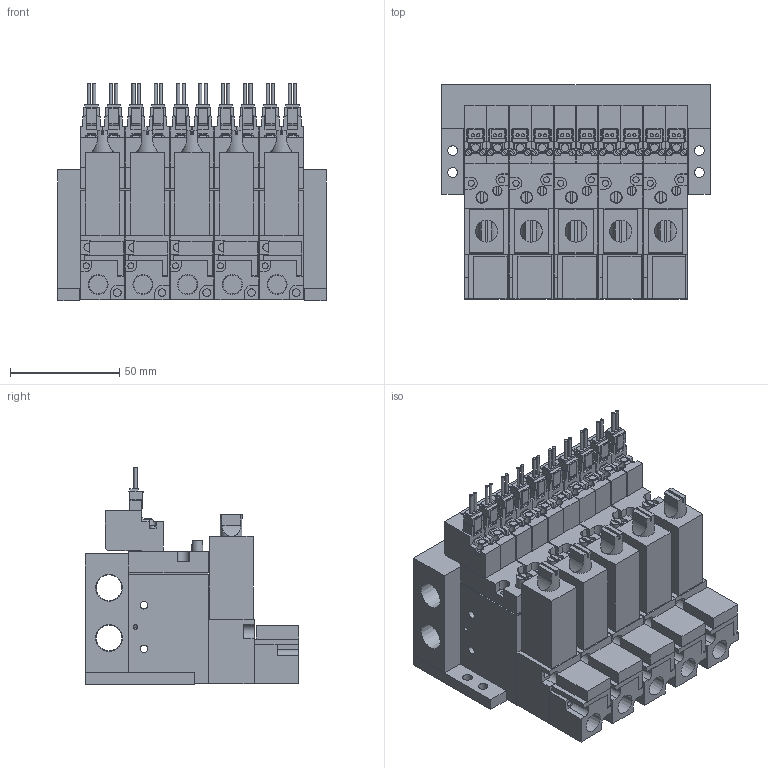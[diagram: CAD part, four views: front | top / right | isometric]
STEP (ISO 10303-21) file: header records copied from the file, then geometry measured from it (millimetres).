
FILE_DESCRIPTION(('STEP AP203'),'1');
FILE_NAME('BMPV32M2NZ25BL505.stp','2025-06-17T01:47:22',(' '),(' '),'Spatial InterOp 3D',' ',' ');
FILE_SCHEMA(('CONFIG_CONTROL_DESIGN'));
Length unit declared in the file: millimetre
Products named in the file (64): BMPV32M2NZ25BL505; S____; ___ ___2; ___-2(Rc); Filter Assy; __; _____; MB BRACKET; MB05; ___; upper plate-A; ______; ____; VACUUM VALVE FUNCTION MPV42-A
Assembly tree (63 placements, depth 2):
  BMPV32M2NZ25BL505
    S____
    ___ ___2
    ___-2(Rc)
    Filter Assy
    __
    _____
    S____
    ___ ___2
    ___-2(Rc)
    Filter Assy
    __
    _____
    S____
    ___ ___2
    ___-2(Rc)
    Filter Assy
    __
    _____
    S____
    ___ ___2
    ___-2(Rc)
    Filter Assy
    __
    _____
    MB BRACKET
    MB05
    MB BRACKET
    S____
    ___ ___2
    ___-2(Rc)
    Filter Assy
    __
    _____
    ___
    upper plate-A
    ______
    ____
    VACUUM VALVE FUNCTION MPV42-A
    VACUUM VALVE FUNCTION MPV42-A
    ___
    upper plate-A
    ______
    ____
    VACUUM VALVE FUNCTION MPV42-A
    VACUUM VALVE FUNCTION MPV42-A
    ___
    upper plate-A
    ______
    ____
    VACUUM VALVE FUNCTION MPV42-A
    VACUUM VALVE FUNCTION MPV42-A
    ___
    upper plate-A
    ______
    ____
    VACUUM VALVE FUNCTION MPV42-A
    VACUUM VALVE FUNCTION MPV42-A
    ___
    upper plate-A
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Bounding box: 123 x 98 x 99.75 mm (x, y, z)
Volume: 536640.3 mm3; surface area: 183559.7 mm2
Topology: 63 solids, 63 shells, 1742 faces, 4575 edges, 3044 vertices
Faces by surface type: plane 1411, cylinder 293, cone 38
Full cylindrical faces by diameter (mm): 1.4 x20, 1.8 x10, 2 x10, 2.5 x14, 2.8 x20, 3 x20, 3.5 x54, 4 x5, 4.2 x5, 4.5 x4, 5 x5, 5.5 x5, 6.5 x6, 8.522 x5, 11.776 x2
Entity records: 55205 total; most frequent: CARTESIAN_POINT 9408, DIRECTION 8615, ORIENTED_EDGE 8506, EDGE_CURVE 4253, LINE 3463, VECTOR 3463, VERTEX_POINT 2979, AXIS2_PLACEMENT_3D 2576
